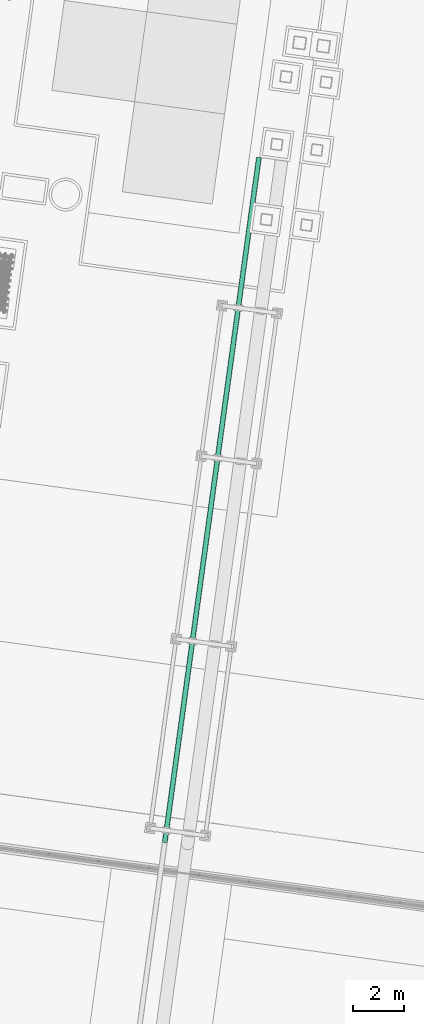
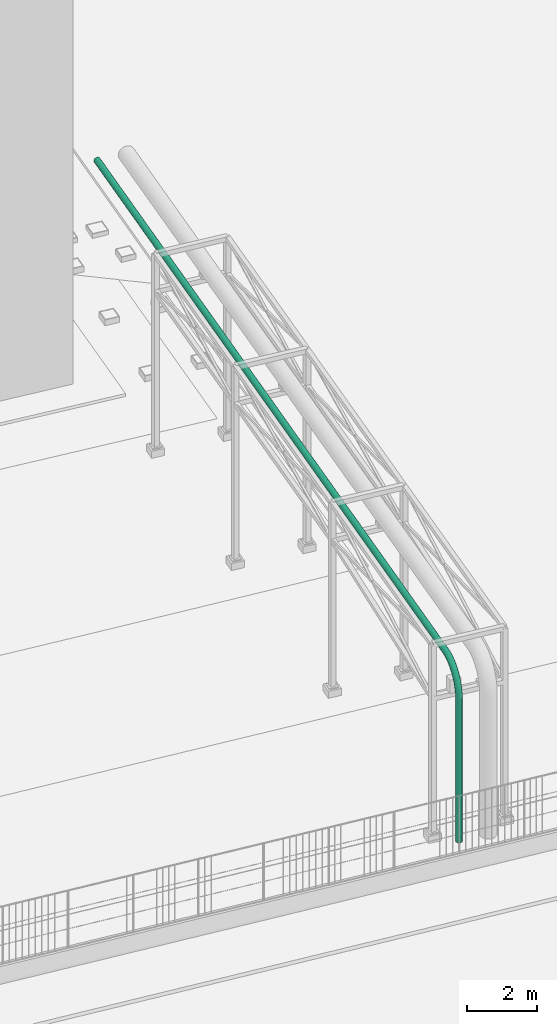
# Not in any storey, part 33 of 75: 1 pipe segment.
"""IFC4 model written with IfcOpenShell, lengths in metres."""

from ifc_helpers import new_model, si_unit, direction, origin, origin_with_axes, place, context, subcontext, project, spatial, triangles, element, save


model = new_model("IFC4")

# Units and contexts
model_context = context("Model", 3, precision=1e-05, world=origin_with_axes(), true_north=direction((0.0, 1.0)))
body_context = subcontext(model_context, "Body", "Model", "MODEL_VIEW")
ifc_project = project(units=[si_unit("AREAUNIT", "SQUARE_METRE"), si_unit("VOLUMEUNIT", "CUBIC_METRE"), si_unit("LENGTHUNIT", "METRE")], contexts=[model_context])

# Site
site_placement = place(None, origin_with_axes())
site = spatial("IfcSite", under=ifc_project, at=site_placement, Name="Parcela industrial Jinhong")

# Pipe segment
pipe_segment_placement = place(None, origin())
element("IfcPipeSegment", 1, at=pipe_segment_placement, inside=site, Name="Nitrógeno Ø 0,2 m · tramo aéreo y bajante", ObjectType="Nitrógeno Ø 0,2 m · tramo aéreo y bajante", PredefinedType="USERDEFINED", context=body_context, shape_type="Tessellation", body=[
    triangles([(58.653262, 40.547671, 7.2), (58.649886, 40.548135, 7.225882), (58.639989, 40.549496, 7.25), (58.624245, 40.551661, 7.270711), (58.603728, 40.554482, 7.286603), (58.579834, 40.557767, 7.296593), (58.554194, 40.561292, 7.3), (58.528553, 40.564817, 7.296593), (58.50466, 40.568102, 7.286603), (58.484142, 40.570923, 7.270711), (58.468398, 40.573087, 7.25), (58.458501, 40.574448, 7.225882), (58.455126, 40.574912, 7.2), (58.458501, 40.574448, 7.174118), (58.468398, 40.573087, 7.15), (58.484142, 40.570923, 7.129289), (58.50466, 40.568102, 7.113397), (58.528553, 40.564817, 7.103407), (58.554194, 40.561292, 7.1), (58.579834, 40.557767, 7.103407), (58.603728, 40.554482, 7.113397), (58.624245, 40.551661, 7.129289), (58.639989, 40.549496, 7.15), (58.649886, 40.548135, 7.174118), (55.07791, 14.5423, 7.2), (55.074534, 14.542759, 7.225882), (55.064636, 14.544115, 7.25), (55.048892, 14.546276, 7.270711), (55.028374, 14.549094, 7.286603), (55.00448, 14.552377, 7.296593), (54.978839, 14.555902, 7.3), (54.953199, 14.559428, 7.296593), (54.929306, 14.562715, 7.286603), (54.908788, 14.565538, 7.270711), (54.893045, 14.567707, 7.25), (54.883149, 14.569072, 7.225882), (54.879774, 14.56954, 7.2), (54.88315, 14.569081, 7.174118), (54.893048, 14.567725, 7.15), (54.908792, 14.565564, 7.129289), (54.92931, 14.562746, 7.113397), (54.953204, 14.559463, 7.103407), (54.978844, 14.555938, 7.1), (55.004485, 14.552412, 7.103407), (55.028378, 14.549125, 7.113397), (55.048895, 14.546302, 7.129289), (55.064639, 14.544133, 7.15), (55.074535, 14.542768, 7.174118), (55.06456, 14.445196, 7.195185), (55.060838, 14.443147, 7.220942), (55.05062, 14.442166, 7.244944), (55.034599, 14.442319, 7.265555), (55.013869, 14.443597, 7.28137), (54.989843, 14.445912, 7.291312), (54.964157, 14.449106, 7.294703), (54.938561, 14.452962, 7.291312), (54.914801, 14.457217, 7.28137), (54.894496, 14.461581, 7.265555), (54.879029, 14.465757, 7.244944), (54.869454, 14.469459, 7.220942), (54.866423, 14.472437, 7.195185), (54.870145, 14.474486, 7.169427), (54.880364, 14.475467, 7.145425), (54.896384, 14.475314, 7.124815), (54.917114, 14.474036, 7.108999), (54.94114, 14.471721, 7.099057), (54.966827, 14.468527, 7.095666), (54.992422, 14.464671, 7.099057), (55.016182, 14.460416, 7.108999), (55.036487, 14.456051, 7.124815), (55.051955, 14.451876, 7.145425), (55.06153, 14.448173, 7.169427), (55.051338, 14.349027, 7.180785), (55.047274, 14.344489, 7.20617), (55.036737, 14.341189, 7.229825), (55.020443, 14.33935, 7.250137), (54.999503, 14.3391, 7.265724), (54.975344, 14.340454, 7.275522), (54.949613, 14.343321, 7.278864), (54.924062, 14.347504, 7.275522), (54.900435, 14.35272, 7.265724), (54.880339, 14.358612, 7.250137), (54.865146, 14.36478, 7.229825), (54.85589, 14.370802, 7.20617), (54.853202, 14.376268, 7.180785), (54.857265, 14.380806, 7.155401), (54.867803, 14.384107, 7.131746), (54.884097, 14.385945, 7.111433), (54.905037, 14.386196, 7.095847), (54.929196, 14.384842, 7.086049), (54.954927, 14.381975, 7.082707), (54.980477, 14.377791, 7.086049), (55.004105, 14.372575, 7.095847), (55.0242, 14.366683, 7.111433), (55.039394, 14.360516, 7.131746), (55.04865, 14.354494, 7.155401), (55.038372, 14.25472, 7.15694), (55.033973, 14.247741, 7.181708), (55.023123, 14.242166, 7.204787), (55.00656, 14.238375, 7.224606), (54.985414, 14.236625, 7.239814), (54.961126, 14.237037, 7.249374), (54.93535, 14.239583, 7.252634), (54.909844, 14.244088, 7.249374), (54.886346, 14.250246, 7.239814), (54.866457, 14.257637, 7.224606), (54.851532, 14.265757, 7.204787), (54.842588, 14.274054, 7.181708), (54.840236, 14.281961, 7.15694), (54.844635, 14.28894, 7.132173), (54.855485, 14.294515, 7.109093), (54.872048, 14.298307, 7.089274), (54.893194, 14.300056, 7.074067), (54.917482, 14.299644, 7.064507), (54.943258, 14.297098, 7.061246), (54.968764, 14.292593, 7.064507), (54.992262, 14.286435, 7.074067), (55.012151, 14.279044, 7.089274), (55.027076, 14.270924, 7.109093), (55.03602, 14.262627, 7.132173), (55.025787, 14.163182, 7.12388), (55.021062, 14.153834, 7.147791), (55.009908, 14.146051, 7.170074), (54.993085, 14.140364, 7.189208), (54.971739, 14.13716, 7.20389), (54.947325, 14.136658, 7.213119), (54.921507, 14.138891, 7.216267), (54.896043, 14.143708, 7.213119), (54.872671, 14.150781, 7.20389), (54.852982, 14.159626, 7.189208), (54.838317, 14.169643, 7.170074), (54.829677, 14.180147, 7.147791), (54.827651, 14.190423, 7.12388), (54.832376, 14.199771, 7.099968), (54.84353, 14.207554, 7.077686), (54.860353, 14.213242, 7.058551), (54.881699, 14.216446, 7.043869), (54.906113, 14.216948, 7.03464), (54.931931, 14.214715, 7.031492), (54.957394, 14.209898, 7.03464), (54.980767, 14.202825, 7.043869), (55.000456, 14.193979, 7.058551), (55.015121, 14.183963, 7.077686), (55.02376, 14.173459, 7.099968), (55.013704, 14.075296, 7.081921), (55.008666, 14.063673, 7.104747), (54.997221, 14.05377, 7.126017), (54.980147, 14.046263, 7.144283), (54.958609, 14.041662, 7.158298), (54.934075, 14.040282, 7.167108), (54.908215, 14.042216, 7.170113), (54.882793, 14.047332, 7.167108), (54.859541, 14.055283, 7.158298), (54.840044, 14.065525, 7.144283), (54.82563, 14.077362, 7.126017), (54.817282, 14.089986, 7.104747), (54.815568, 14.102537, 7.081921), (54.820605, 14.11416, 7.059095), (54.832051, 14.124062, 7.037825), (54.849124, 14.13157, 7.01956), (54.870662, 14.13617, 7.005545), (54.895197, 14.137551, 6.996734), (54.921056, 14.135617, 6.993729), (54.946478, 14.1305, 6.996734), (54.96973, 14.12255, 7.005545), (54.989228, 14.112307, 7.01956), (55.003642, 14.100471, 7.037825), (55.01199, 14.087847, 7.059095), (55.002239, 13.991907, 7.03147), (54.996905, 13.978126, 7.05299), (54.985183, 13.966212, 7.073043), (54.967872, 13.956978, 7.090263), (54.946152, 13.951052, 7.103477), (54.921503, 13.948838, 7.111783), (54.895604, 13.950488, 7.114617), (54.870221, 13.955889, 7.111783), (54.847084, 13.964672, 7.103477), (54.827769, 13.97624, 7.090263), (54.813592, 13.989803, 7.073043), (54.80552, 14.004438, 7.05299), (54.804103, 14.019148, 7.03147), (54.809437, 14.032929, 7.00995), (54.821159, 14.044842, 6.989896), (54.83847, 14.054077, 6.972676), (54.86019, 14.060003, 6.959462), (54.88484, 14.062216, 6.951156), (54.910738, 14.060566, 6.948323), (54.936121, 14.055166, 6.951156), (54.959258, 14.046382, 6.959462), (54.978573, 14.034815, 6.972676), (54.99275, 14.021251, 6.989896), (55.000822, 14.006616, 7.00995), (54.991503, 13.913818, 6.97301), (54.985891, 13.898016, 6.993017), (54.97391, 13.884219, 7.011661), (54.956377, 13.873367, 7.027671), (54.934486, 13.8662, 7.039955), (54.909729, 13.863207, 7.047678), (54.883794, 13.864591, 7.050311), (54.858448, 13.870257, 7.047678), (54.835418, 13.879821, 7.039955), (54.816273, 13.892629, 7.027671), (54.802319, 13.90781, 7.011661), (54.794506, 13.924329, 6.993017), (54.793367, 13.941059, 6.97301), (54.798979, 13.956861, 6.953003), (54.81096, 13.970658, 6.93436), (54.828493, 13.98151, 6.91835), (54.850384, 13.988677, 6.906066), (54.875141, 13.991671, 6.898343), (54.901076, 13.990287, 6.895709), (54.926422, 13.98462, 6.898343), (54.949452, 13.975057, 6.906066), (54.968597, 13.962248, 6.91835), (54.982551, 13.947067, 6.93436), (54.990364, 13.930549, 6.953003), (54.981599, 13.841782, 6.907107), (54.975731, 13.824116, 6.925408), (54.963511, 13.808581, 6.942462), (54.945773, 13.796238, 6.957107), (54.923724, 13.787926, 6.968344), (54.898869, 13.784213, 6.975408), (54.8729, 13.785351, 6.977817), (54.847588, 13.791263, 6.975408), (54.824656, 13.801546, 6.968344), (54.805669, 13.8155, 6.957107), (54.79192, 13.832173, 6.942462), (54.784346, 13.850428, 6.925408), (54.783463, 13.869023, 6.907107), (54.789331, 13.88669, 6.888806), (54.801551, 13.902224, 6.871751), (54.81929, 13.914568, 6.857107), (54.841338, 13.92288, 6.84587), (54.866193, 13.926593, 6.838806), (54.892162, 13.925455, 6.836396), (54.917475, 13.919542, 6.838806), (54.940406, 13.909259, 6.84587), (54.959393, 13.895306, 6.857107), (54.973142, 13.878633, 6.871751), (54.980716, 13.860377, 6.888806), (54.972623, 13.776493, 6.834393), (54.966522, 13.757137, 6.850813), (54.954086, 13.740027, 6.866113), (54.936162, 13.726332, 6.879252), (54.913971, 13.716982, 6.889333), (54.889026, 13.712617, 6.895671), (54.863026, 13.713533, 6.897833), (54.837744, 13.719667, 6.895671), (54.814903, 13.730603, 6.889333), (54.796058, 13.745594, 6.879252), (54.782495, 13.763619, 6.866113), (54.775137, 13.783449, 6.850813), (54.774487, 13.803734, 6.834393), (54.780587, 13.82309, 6.817974), (54.793024, 13.840199, 6.802674), (54.810948, 13.853895, 6.789535), (54.833139, 13.863244, 6.779453), (54.858084, 13.86761, 6.773116), (54.884084, 13.866694, 6.770954), (54.909365, 13.860559, 6.773116), (54.932207, 13.849624, 6.779453), (54.951051, 13.834633, 6.789535), (54.964615, 13.816608, 6.802674), (54.971972, 13.796778, 6.817974), (54.964661, 13.718579, 6.75557), (54.958354, 13.697723, 6.769949), (54.945725, 13.679217, 6.783349), (54.927636, 13.664322, 6.794855), (54.905319, 13.654052, 6.803684), (54.880294, 13.649108, 6.809234), (54.854268, 13.649827, 6.811127), (54.829013, 13.656159, 6.809234), (54.806251, 13.667673, 6.803684), (54.787533, 13.683584, 6.794855), (54.774135, 13.702809, 6.783349), (54.766969, 13.724036, 6.769949), (54.766524, 13.745819, 6.75557), (54.772831, 13.766675, 6.741191), (54.785459, 13.785181, 6.727792), (54.803549, 13.800076, 6.716285), (54.825866, 13.810346, 6.707456), (54.850891, 13.81529, 6.701906), (54.876917, 13.814571, 6.700013), (54.902172, 13.808239, 6.701906), (54.924934, 13.796725, 6.707456), (54.943652, 13.780814, 6.716285), (54.95705, 13.761589, 6.727792), (54.964216, 13.740362, 6.741191), (54.957789, 13.668597, 6.671397), (54.951304, 13.646448, 6.683597), (54.93851, 13.626737, 6.694967), (54.920279, 13.610806, 6.70473), (54.897852, 13.599742, 6.712221), (54.872759, 13.594299, 6.71693), (54.846709, 13.594847, 6.718536), (54.821477, 13.60135, 6.71693), (54.798784, 13.613363, 6.712221), (54.780175, 13.630068, 6.70473), (54.766919, 13.650328, 6.694967), (54.759919, 13.672761, 6.683597), (54.759653, 13.695838, 6.671397), (54.766137, 13.717987, 6.659196), (54.778931, 13.737698, 6.647827), (54.797163, 13.753629, 6.638064), (54.81959, 13.764693, 6.630573), (54.844683, 13.770136, 6.625863), (54.870733, 13.769588, 6.624257), (54.895964, 13.763085, 6.625863), (54.918658, 13.751072, 6.630573), (54.937266, 13.734367, 6.638064), (54.950522, 13.714107, 6.647827), (54.957522, 13.691674, 6.659196), (54.952074, 13.62703, 6.582683), (54.945441, 13.603805, 6.592588), (54.93251, 13.583091, 6.601818), (54.91416, 13.5663, 6.609743), (54.891642, 13.554575, 6.615825), (54.866492, 13.548717, 6.619648), (54.840422, 13.549123, 6.620952), (54.81521, 13.555767, 6.619648), (54.792574, 13.568196, 6.615825), (54.774056, 13.585562, 6.609743), (54.760919, 13.606682, 6.601818), (54.754057, 13.630118, 6.592588), (54.753938, 13.654271, 6.582683), (54.76057, 13.677495, 6.572779), (54.773502, 13.698209, 6.563549), (54.791852, 13.715001, 6.555624), (54.81437, 13.726725, 6.549542), (54.83952, 13.732584, 6.545719), (54.865589, 13.732177, 6.544415), (54.890801, 13.725533, 6.545719), (54.913438, 13.713105, 6.549542), (54.931956, 13.695739, 6.555624), (54.945093, 13.674618, 6.563549), (54.951955, 13.651183, 6.572779), (54.947571, 13.594277, 6.490285), (54.940822, 13.570205, 6.497798), (54.927781, 13.548701, 6.504799), (54.909338, 13.531231, 6.510811), (54.886749, 13.518986, 6.515424), (54.861554, 13.5128, 6.518324), (54.835469, 13.513095, 6.519313), (54.810272, 13.519851, 6.518324), (54.787681, 13.532607, 6.515424), (54.769235, 13.550493, 6.510811), (54.75619, 13.572292, 6.504799), (54.749437, 13.596517, 6.497798), (54.749435, 13.621518, 6.490285), (54.756184, 13.64559, 6.482772), (54.769224, 13.667094, 6.47577), (54.787668, 13.684564, 6.469758), (54.810257, 13.696809, 6.465145), (54.835452, 13.702995, 6.462245), (54.861537, 13.7027, 6.461256), (54.886733, 13.695944, 6.462245), (54.909325, 13.683189, 6.465145), (54.927771, 13.665302, 6.469758), (54.940815, 13.643503, 6.47577), (54.947569, 13.619278, 6.482772), (54.944323, 13.570654, 6.39509), (54.93749, 13.545971, 6.40014), (54.924371, 13.523897, 6.404845), (54.905861, 13.505938, 6.408885), (54.88322, 13.493318, 6.411986), (54.857992, 13.486896, 6.413935), (54.831896, 13.48711, 6.414599), (54.806711, 13.493946, 6.413935), (54.784152, 13.506938, 6.411986), (54.765757, 13.5252, 6.408885), (54.75278, 13.547488, 6.404845), (54.746105, 13.572283, 6.40014), (54.746187, 13.597895, 6.39509), (54.75302, 13.622579, 6.390041), (54.766139, 13.644653, 6.385336), (54.784649, 13.662612, 6.381295), (54.80729, 13.675232, 6.378195), (54.832518, 13.681654, 6.376246), (54.858614, 13.681439, 6.375581), (54.883799, 13.674603, 6.376246), (54.906358, 13.661612, 6.378195), (54.924753, 13.643349, 6.381295), (54.93773, 13.621061, 6.385336), (54.944405, 13.596267, 6.390041), (54.942362, 13.556389, 6.298017), (54.935478, 13.531336, 6.300554), (54.922312, 13.508918, 6.302918), (54.903761, 13.490664, 6.304948), (54.881089, 13.477817, 6.306506), (54.855842, 13.471253, 6.307485), (54.829739, 13.471419, 6.307819), (54.80456, 13.478303, 6.307485), (54.782021, 13.491437, 6.306506), (54.763657, 13.509926, 6.304948), (54.750721, 13.53251, 6.302918), (54.744093, 13.557649, 6.300554), (54.744226, 13.58363, 6.298017), (54.75111, 13.608683, 6.29548), (54.764276, 13.631101, 6.293116), (54.782827, 13.649355, 6.291086), (54.805499, 13.662202, 6.289529), (54.830746, 13.668766, 6.288549), (54.856849, 13.668601, 6.288215), (54.882027, 13.661716, 6.288549), (54.904567, 13.648582, 6.289529), (54.92293, 13.630093, 6.291086), (54.935867, 13.607509, 6.293116), (54.942495, 13.582371, 6.29548), (54.941706, 13.551619, 6.2), (54.934805, 13.526442, 6.200025), (54.921623, 13.50391, 6.200048), (54.903059, 13.485556, 6.200068), (54.880376, 13.472634, 6.200083), (54.855122, 13.466022, 6.200092), (54.829018, 13.466171, 6.200096), (54.803841, 13.473072, 6.200092), (54.781308, 13.486254, 6.200083), (54.762955, 13.504819, 6.200068), (54.750032, 13.527501, 6.200048), (54.74342, 13.552755, 6.200025), (54.74357, 13.57886, 6.2), (54.750471, 13.604036, 6.199975), (54.763653, 13.626569, 6.199952), (54.782217, 13.644922, 6.199932), (54.8049, 13.657845, 6.199917), (54.830154, 13.664457, 6.199908), (54.856258, 13.664307, 6.199904), (54.881435, 13.657406, 6.199908), (54.903968, 13.644224, 6.199917), (54.922321, 13.62566, 6.199932), (54.935244, 13.602978, 6.199952), (54.941856, 13.577724, 6.199975), (54.941706, 13.551619, 1.261512), (54.934805, 13.526442, 1.261512), (54.921623, 13.50391, 1.261512), (54.903059, 13.485556, 1.261512), (54.880376, 13.472633, 1.261512), (54.855122, 13.466022, 1.261512), (54.829018, 13.466171, 1.261512), (54.803841, 13.473072, 1.261512), (54.781308, 13.486254, 1.261512), (54.762955, 13.504819, 1.261512), (54.750032, 13.527501, 1.261512), (54.74342, 13.552755, 1.261512), (54.74357, 13.57886, 1.261512), (54.750471, 13.604036, 1.261512), (54.763653, 13.626569, 1.261512), (54.782217, 13.644922, 1.261512), (54.8049, 13.657845, 1.261512), (54.830154, 13.664457, 1.261512), (54.856258, 13.664307, 1.261512), (54.881435, 13.657406, 1.261512), (54.903968, 13.644224, 1.261512), (54.922321, 13.62566, 1.261512), (54.935244, 13.602978, 1.261512), (54.941856, 13.577724, 1.261512), (58.554194, 40.561292, 7.2), (54.842638, 13.565239, 1.261512)], [[1, 2, 26], [1, 26, 25], [2, 3, 27], [2, 27, 26], [3, 4, 28], [3, 28, 27], [4, 5, 29], [4, 29, 28], [5, 6, 30], [5, 30, 29], [6, 7, 31], [6, 31, 30], [7, 8, 32], [7, 32, 31], [8, 9, 33], [8, 33, 32], [9, 10, 34], [9, 34, 33], [10, 11, 35], [10, 35, 34], [11, 12, 36], [11, 36, 35], [12, 13, 37], [12, 37, 36], [13, 14, 38], [13, 38, 37], [14, 15, 39], [14, 39, 38], [15, 16, 40], [15, 40, 39], [16, 17, 41], [16, 41, 40], [17, 18, 42], [17, 42, 41], [18, 19, 43], [18, 43, 42], [19, 20, 44], [19, 44, 43], [20, 21, 45], [20, 45, 44], [21, 22, 46], [21, 46, 45], [22, 23, 47], [22, 47, 46], [23, 24, 48], [23, 48, 47], [24, 1, 25], [24, 25, 48], [25, 26, 50], [25, 50, 49], [26, 27, 51], [26, 51, 50], [27, 28, 52], [27, 52, 51], [28, 29, 53], [28, 53, 52], [29, 30, 54], [29, 54, 53], [30, 31, 55], [30, 55, 54], [31, 32, 56], [31, 56, 55], [32, 33, 57], [32, 57, 56], [33, 34, 58], [33, 58, 57], [34, 35, 59], [34, 59, 58], [35, 36, 60], [35, 60, 59], [36, 37, 61], [36, 61, 60], [37, 38, 62], [37, 62, 61], [38, 39, 63], [38, 63, 62], [39, 40, 64], [39, 64, 63], [40, 41, 65], [40, 65, 64], [41, 42, 66], [41, 66, 65], [42, 43, 67], [42, 67, 66], [43, 44, 68], [43, 68, 67], [44, 45, 69], [44, 69, 68], [45, 46, 70], [45, 70, 69], [46, 47, 71], [46, 71, 70], [47, 48, 72], [47, 72, 71], [48, 25, 49], [48, 49, 72], [49, 50, 74], [49, 74, 73], [50, 51, 75], [50, 75, 74], [51, 52, 76], [51, 76, 75], [52, 53, 77], [52, 77, 76], [53, 54, 78], [53, 78, 77], [54, 55, 79], [54, 79, 78], [55, 56, 80], [55, 80, 79], [56, 57, 81], [56, 81, 80], [57, 58, 82], [57, 82, 81], [58, 59, 83], [58, 83, 82], [59, 60, 84], [59, 84, 83], [60, 61, 85], [60, 85, 84], [61, 62, 86], [61, 86, 85], [62, 63, 87], [62, 87, 86], [63, 64, 88], [63, 88, 87], [64, 65, 89], [64, 89, 88], [65, 66, 90], [65, 90, 89], [66, 67, 91], [66, 91, 90], [67, 68, 92], [67, 92, 91], [68, 69, 93], [68, 93, 92], [69, 70, 94], [69, 94, 93], [70, 71, 95], [70, 95, 94], [71, 72, 96], [71, 96, 95], [72, 49, 73], [72, 73, 96], [73, 74, 98], [73, 98, 97], [74, 75, 99], [74, 99, 98], [75, 76, 100], [75, 100, 99], [76, 77, 101], [76, 101, 100], [77, 78, 102], [77, 102, 101], [78, 79, 103], [78, 103, 102], [79, 80, 104], [79, 104, 103], [80, 81, 105], [80, 105, 104], [81, 82, 106], [81, 106, 105], [82, 83, 107], [82, 107, 106], [83, 84, 108], [83, 108, 107], [84, 85, 109], [84, 109, 108], [85, 86, 110], [85, 110, 109], [86, 87, 111], [86, 111, 110], [87, 88, 112], [87, 112, 111], [88, 89, 113], [88, 113, 112], [89, 90, 114], [89, 114, 113], [90, 91, 115], [90, 115, 114], [91, 92, 116], [91, 116, 115], [92, 93, 117], [92, 117, 116], [93, 94, 118], [93, 118, 117], [94, 95, 119], [94, 119, 118], [95, 96, 120], [95, 120, 119], [96, 73, 97], [96, 97, 120], [97, 98, 122], [97, 122, 121], [98, 99, 123], [98, 123, 122], [99, 100, 124], [99, 124, 123], [100, 101, 125], [100, 125, 124], [101, 102, 126], [101, 126, 125], [102, 103, 127], [102, 127, 126], [103, 104, 128], [103, 128, 127], [104, 105, 129], [104, 129, 128], [105, 106, 130], [105, 130, 129], [106, 107, 131], [106, 131, 130], [107, 108, 132], [107, 132, 131], [108, 109, 133], [108, 133, 132], [109, 110, 134], [109, 134, 133], [110, 111, 135], [110, 135, 134], [111, 112, 136], [111, 136, 135], [112, 113, 137], [112, 137, 136], [113, 114, 138], [113, 138, 137], [114, 115, 139], [114, 139, 138], [115, 116, 140], [115, 140, 139], [116, 117, 141], [116, 141, 140], [117, 118, 142], [117, 142, 141], [118, 119, 143], [118, 143, 142], [119, 120, 144], [119, 144, 143], [120, 97, 121], [120, 121, 144], [121, 122, 146], [121, 146, 145], [122, 123, 147], [122, 147, 146], [123, 124, 148], [123, 148, 147], [124, 125, 149], [124, 149, 148], [125, 126, 150], [125, 150, 149], [126, 127, 151], [126, 151, 150], [127, 128, 152], [127, 152, 151], [128, 129, 153], [128, 153, 152], [129, 130, 154], [129, 154, 153], [130, 131, 155], [130, 155, 154], [131, 132, 156], [131, 156, 155], [132, 133, 157], [132, 157, 156], [133, 134, 158], [133, 158, 157], [134, 135, 159], [134, 159, 158], [135, 136, 160], [135, 160, 159], [136, 137, 161], [136, 161, 160], [137, 138, 162], [137, 162, 161], [138, 139, 163], [138, 163, 162], [139, 140, 164], [139, 164, 163], [140, 141, 165], [140, 165, 164], [141, 142, 166], [141, 166, 165], [142, 143, 167], [142, 167, 166], [143, 144, 168], [143, 168, 167], [144, 121, 145], [144, 145, 168], [145, 146, 170], [145, 170, 169], [146, 147, 171], [146, 171, 170], [147, 148, 172], [147, 172, 171], [148, 149, 173], [148, 173, 172], [149, 150, 174], [149, 174, 173], [150, 151, 175], [150, 175, 174], [151, 152, 176], [151, 176, 175], [152, 153, 177], [152, 177, 176], [153, 154, 178], [153, 178, 177], [154, 155, 179], [154, 179, 178], [155, 156, 180], [155, 180, 179], [156, 157, 181], [156, 181, 180], [157, 158, 182], [157, 182, 181], [158, 159, 183], [158, 183, 182], [159, 160, 184], [159, 184, 183], [160, 161, 185], [160, 185, 184], [161, 162, 186], [161, 186, 185], [162, 163, 187], [162, 187, 186], [163, 164, 188], [163, 188, 187], [164, 165, 189], [164, 189, 188], [165, 166, 190], [165, 190, 189], [166, 167, 191], [166, 191, 190], [167, 168, 192], [167, 192, 191], [168, 145, 169], [168, 169, 192], [169, 170, 194], [169, 194, 193], [170, 171, 195], [170, 195, 194], [171, 172, 196], [171, 196, 195], [172, 173, 197], [172, 197, 196], [173, 174, 198], [173, 198, 197], [174, 175, 199], [174, 199, 198], [175, 176, 200], [175, 200, 199], [176, 177, 201], [176, 201, 200], [177, 178, 202], [177, 202, 201], [178, 179, 203], [178, 203, 202], [179, 180, 204], [179, 204, 203], [180, 181, 205], [180, 205, 204], [181, 182, 206], [181, 206, 205], [182, 183, 207], [182, 207, 206], [183, 184, 208], [183, 208, 207], [184, 185, 209], [184, 209, 208], [185, 186, 210], [185, 210, 209], [186, 187, 211], [186, 211, 210], [187, 188, 212], [187, 212, 211], [188, 189, 213], [188, 213, 212], [189, 190, 214], [189, 214, 213], [190, 191, 215], [190, 215, 214], [191, 192, 216], [191, 216, 215], [192, 169, 193], [192, 193, 216], [193, 194, 218], [193, 218, 217], [194, 195, 219], [194, 219, 218], [195, 196, 220], [195, 220, 219], [196, 197, 221], [196, 221, 220], [197, 198, 222], [197, 222, 221], [198, 199, 223], [198, 223, 222], [199, 200, 224], [199, 224, 223], [200, 201, 225], [200, 225, 224], [201, 202, 226], [201, 226, 225], [202, 203, 227], [202, 227, 226], [203, 204, 228], [203, 228, 227], [204, 205, 229], [204, 229, 228], [205, 206, 230], [205, 230, 229], [206, 207, 231], [206, 231, 230], [207, 208, 232], [207, 232, 231], [208, 209, 233], [208, 233, 232], [209, 210, 234], [209, 234, 233], [210, 211, 235], [210, 235, 234], [211, 212, 236], [211, 236, 235], [212, 213, 237], [212, 237, 236], [213, 214, 238], [213, 238, 237], [214, 215, 239], [214, 239, 238], [215, 216, 240], [215, 240, 239], [216, 193, 217], [216, 217, 240], [217, 218, 242], [217, 242, 241], [218, 219, 243], [218, 243, 242], [219, 220, 244], [219, 244, 243], [220, 221, 245], [220, 245, 244], [221, 222, 246], [221, 246, 245], [222, 223, 247], [222, 247, 246], [223, 224, 248], [223, 248, 247], [224, 225, 249], [224, 249, 248], [225, 226, 250], [225, 250, 249], [226, 227, 251], [226, 251, 250], [227, 228, 252], [227, 252, 251], [228, 229, 253], [228, 253, 252], [229, 230, 254], [229, 254, 253], [230, 231, 255], [230, 255, 254], [231, 232, 256], [231, 256, 255], [232, 233, 257], [232, 257, 256], [233, 234, 258], [233, 258, 257], [234, 235, 259], [234, 259, 258], [235, 236, 260], [235, 260, 259], [236, 237, 261], [236, 261, 260], [237, 238, 262], [237, 262, 261], [238, 239, 263], [238, 263, 262], [239, 240, 264], [239, 264, 263], [240, 217, 241], [240, 241, 264], [241, 242, 266], [241, 266, 265], [242, 243, 267], [242, 267, 266], [243, 244, 268], [243, 268, 267], [244, 245, 269], [244, 269, 268], [245, 246, 270], [245, 270, 269], [246, 247, 271], [246, 271, 270], [247, 248, 272], [247, 272, 271], [248, 249, 273], [248, 273, 272], [249, 250, 274], [249, 274, 273], [250, 251, 275], [250, 275, 274], [251, 252, 276], [251, 276, 275], [252, 253, 277], [252, 277, 276], [253, 254, 278], [253, 278, 277], [254, 255, 279], [254, 279, 278], [255, 256, 280], [255, 280, 279], [256, 257, 281], [256, 281, 280], [257, 258, 282], [257, 282, 281], [258, 259, 283], [258, 283, 282], [259, 260, 284], [259, 284, 283], [260, 261, 285], [260, 285, 284], [261, 262, 286], [261, 286, 285], [262, 263, 287], [262, 287, 286], [263, 264, 288], [263, 288, 287], [264, 241, 265], [264, 265, 288], [265, 266, 290], [265, 290, 289], [266, 267, 291], [266, 291, 290], [267, 268, 292], [267, 292, 291], [268, 269, 293], [268, 293, 292], [269, 270, 294], [269, 294, 293], [270, 271, 295], [270, 295, 294], [271, 272, 296], [271, 296, 295], [272, 273, 297], [272, 297, 296], [273, 274, 298], [273, 298, 297], [274, 275, 299], [274, 299, 298], [275, 276, 300], [275, 300, 299], [276, 277, 301], [276, 301, 300], [277, 278, 302], [277, 302, 301], [278, 279, 303], [278, 303, 302], [279, 280, 304], [279, 304, 303], [280, 281, 305], [280, 305, 304], [281, 282, 306], [281, 306, 305], [282, 283, 307], [282, 307, 306], [283, 284, 308], [283, 308, 307], [284, 285, 309], [284, 309, 308], [285, 286, 310], [285, 310, 309], [286, 287, 311], [286, 311, 310], [287, 288, 312], [287, 312, 311], [288, 265, 289], [288, 289, 312], [289, 290, 314], [289, 314, 313], [290, 291, 315], [290, 315, 314], [291, 292, 316], [291, 316, 315], [292, 293, 317], [292, 317, 316], [293, 294, 318], [293, 318, 317], [294, 295, 319], [294, 319, 318], [295, 296, 320], [295, 320, 319], [296, 297, 321], [296, 321, 320], [297, 298, 322], [297, 322, 321], [298, 299, 323], [298, 323, 322], [299, 300, 324], [299, 324, 323], [300, 301, 325], [300, 325, 324], [301, 302, 326], [301, 326, 325], [302, 303, 327], [302, 327, 326], [303, 304, 328], [303, 328, 327], [304, 305, 329], [304, 329, 328], [305, 306, 330], [305, 330, 329], [306, 307, 331], [306, 331, 330], [307, 308, 332], [307, 332, 331], [308, 309, 333], [308, 333, 332], [309, 310, 334], [309, 334, 333], [310, 311, 335], [310, 335, 334], [311, 312, 336], [311, 336, 335], [312, 289, 313], [312, 313, 336], [313, 314, 338], [313, 338, 337], [314, 315, 339], [314, 339, 338], [315, 316, 340], [315, 340, 339], [316, 317, 341], [316, 341, 340], [317, 318, 342], [317, 342, 341], [318, 319, 343], [318, 343, 342], [319, 320, 344], [319, 344, 343], [320, 321, 345], [320, 345, 344], [321, 322, 346], [321, 346, 345], [322, 323, 347], [322, 347, 346], [323, 324, 348], [323, 348, 347], [324, 325, 349], [324, 349, 348], [325, 326, 350], [325, 350, 349], [326, 327, 351], [326, 351, 350], [327, 328, 352], [327, 352, 351], [328, 329, 353], [328, 353, 352], [329, 330, 354], [329, 354, 353], [330, 331, 355], [330, 355, 354], [331, 332, 356], [331, 356, 355], [332, 333, 357], [332, 357, 356], [333, 334, 358], [333, 358, 357], [334, 335, 359], [334, 359, 358], [335, 336, 360], [335, 360, 359], [336, 313, 337], [336, 337, 360], [337, 338, 362], [337, 362, 361], [338, 339, 363], [338, 363, 362], [339, 340, 364], [339, 364, 363], [340, 341, 365], [340, 365, 364], [341, 342, 366], [341, 366, 365], [342, 343, 367], [342, 367, 366], [343, 344, 368], [343, 368, 367], [344, 345, 369], [344, 369, 368], [345, 346, 370], [345, 370, 369], [346, 347, 371], [346, 371, 370], [347, 348, 372], [347, 372, 371], [348, 349, 373], [348, 373, 372], [349, 350, 374], [349, 374, 373], [350, 351, 375], [350, 375, 374], [351, 352, 376], [351, 376, 375], [352, 353, 377], [352, 377, 376], [353, 354, 378], [353, 378, 377], [354, 355, 379], [354, 379, 378], [355, 356, 380], [355, 380, 379], [356, 357, 381], [356, 381, 380], [357, 358, 382], [357, 382, 381], [358, 359, 383], [358, 383, 382], [359, 360, 384], [359, 384, 383], [360, 337, 361], [360, 361, 384], [361, 362, 386], [361, 386, 385], [362, 363, 387], [362, 387, 386], [363, 364, 388], [363, 388, 387], [364, 365, 389], [364, 389, 388], [365, 366, 390], [365, 390, 389], [366, 367, 391], [366, 391, 390], [367, 368, 392], [367, 392, 391], [368, 369, 393], [368, 393, 392], [369, 370, 394], [369, 394, 393], [370, 371, 395], [370, 395, 394], [371, 372, 396], [371, 396, 395], [372, 373, 397], [372, 397, 396], [373, 374, 398], [373, 398, 397], [374, 375, 399], [374, 399, 398], [375, 376, 400], [375, 400, 399], [376, 377, 401], [376, 401, 400], [377, 378, 402], [377, 402, 401], [378, 379, 403], [378, 403, 402], [379, 380, 404], [379, 404, 403], [380, 381, 405], [380, 405, 404], [381, 382, 406], [381, 406, 405], [382, 383, 407], [382, 407, 406], [383, 384, 408], [383, 408, 407], [384, 361, 385], [384, 385, 408], [385, 386, 410], [385, 410, 409], [386, 387, 411], [386, 411, 410], [387, 388, 412], [387, 412, 411], [388, 389, 413], [388, 413, 412], [389, 390, 414], [389, 414, 413], [390, 391, 415], [390, 415, 414], [391, 392, 416], [391, 416, 415], [392, 393, 417], [392, 417, 416], [393, 394, 418], [393, 418, 417], [394, 395, 419], [394, 419, 418], [395, 396, 420], [395, 420, 419], [396, 397, 421], [396, 421, 420], [397, 398, 422], [397, 422, 421], [398, 399, 423], [398, 423, 422], [399, 400, 424], [399, 424, 423], [400, 401, 425], [400, 425, 424], [401, 402, 426], [401, 426, 425], [402, 403, 427], [402, 427, 426], [403, 404, 428], [403, 428, 427], [404, 405, 429], [404, 429, 428], [405, 406, 430], [405, 430, 429], [406, 407, 431], [406, 431, 430], [407, 408, 432], [407, 432, 431], [408, 385, 409], [408, 409, 432], [409, 410, 434], [409, 434, 433], [410, 411, 435], [410, 435, 434], [411, 412, 436], [411, 436, 435], [412, 413, 437], [412, 437, 436], [413, 414, 438], [413, 438, 437], [414, 415, 439], [414, 439, 438], [415, 416, 440], [415, 440, 439], [416, 417, 441], [416, 441, 440], [417, 418, 442], [417, 442, 441], [418, 419, 443], [418, 443, 442], [419, 420, 444], [419, 444, 443], [420, 421, 445], [420, 445, 444], [421, 422, 446], [421, 446, 445], [422, 423, 447], [422, 447, 446], [423, 424, 448], [423, 448, 447], [424, 425, 449], [424, 449, 448], [425, 426, 450], [425, 450, 449], [426, 427, 451], [426, 451, 450], [427, 428, 452], [427, 452, 451], [428, 429, 453], [428, 453, 452], [429, 430, 454], [429, 454, 453], [430, 431, 455], [430, 455, 454], [431, 432, 456], [431, 456, 455], [432, 409, 433], [432, 433, 456], [457, 2, 1], [458, 433, 434], [457, 3, 2], [458, 434, 435], [457, 4, 3], [458, 435, 436], [457, 5, 4], [458, 436, 437], [457, 6, 5], [458, 437, 438], [457, 7, 6], [458, 438, 439], [457, 8, 7], [458, 439, 440], [457, 9, 8], [458, 440, 441], [457, 10, 9], [458, 441, 442], [457, 11, 10], [458, 442, 443], [457, 12, 11], [458, 443, 444], [457, 13, 12], [458, 444, 445], [457, 14, 13], [458, 445, 446], [457, 15, 14], [458, 446, 447], [457, 16, 15], [458, 447, 448], [457, 17, 16], [458, 448, 449], [457, 18, 17], [458, 449, 450], [457, 19, 18], [458, 450, 451], [457, 20, 19], [458, 451, 452], [457, 21, 20], [458, 452, 453], [457, 22, 21], [458, 453, 454], [457, 23, 22], [458, 454, 455], [457, 24, 23], [458, 455, 456], [457, 1, 24], [458, 456, 433]], closed=True),
])

save(model, "model.ifc")
